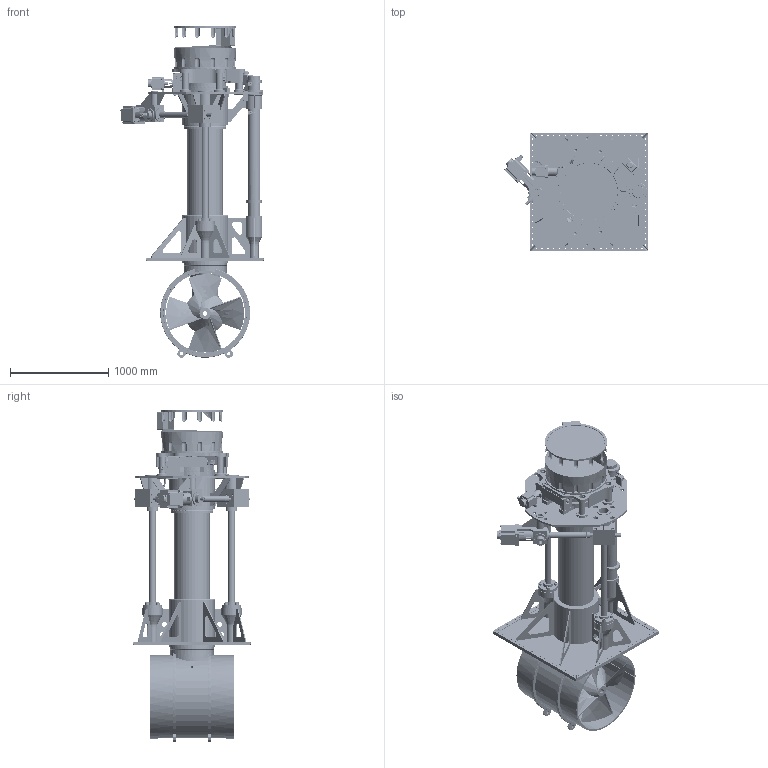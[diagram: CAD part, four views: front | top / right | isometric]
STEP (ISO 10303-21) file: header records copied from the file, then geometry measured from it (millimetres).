
FILE_DESCRIPTION(/* description */ (''),/* implementation_level */ '2;1');
FILE_NAME(/* name */ 'Q:\THRUSTERS\THRUSTER SALES & SUPPORT DOCS\THRUSTER Sales\E-V-R\E-0800-V-R\E-0800-V-R-RETRACTED.stp',/* time_stamp */ '2021-01-29T08:41:22+00:00',/* author */ ('Barney.Webborn'),/* organization */ (''),/* preprocessor_version */ 'ST-DEVELOPER v17.2',/* originating_system */ 'Autodesk Inventor 2019',/* authorisation */ '');
FILE_SCHEMA (('AUTOMOTIVE_DESIGN { 1 0 10303 214 3 1 1 }'));
Products named in the file (1): E-0800-V-R_Shrinkwrap_1
Bounding box: 1467.41 x 1200 x 3386.55 mm (x, y, z)
Volume: 454755043.3 mm3; surface area: 28587285 mm2
Topology: 6 solids, 6 shells, 4832 faces, 13658 edges, 8996 vertices
Faces by surface type: plane 2008, cylinder 1569, cone 642, torus 487, bspline 71, sphere 55
Full cylindrical faces by diameter (mm): 3 x6, 4.95 x8, 5.5 x12, 7 x20, 7.2 x2, 8 x6, 8.5 x16, 9 x1, 9.525 x1, 12.4 x16, 13 x90, 13.494 x12, 13.5 x4, 14 x25, 15 x4, 15.25 x5, 15.3 x2, 16 x4, 17 x2, 17.5 x2, 18 x1, 18.376 x2, 20 x4, 21 x2, 24 x1, 24.5 x2, 25 x4, 26.5 x16, 28.4 x1, 29 x1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
Entity records: 176531 total; most frequent: CARTESIAN_POINT 45406, ORIENTED_EDGE 27166, DIRECTION 26031, EDGE_CURVE 13583, AXIS2_PLACEMENT_3D 10068, VERTEX_POINT 8996, LINE 5895, VECTOR 5895
